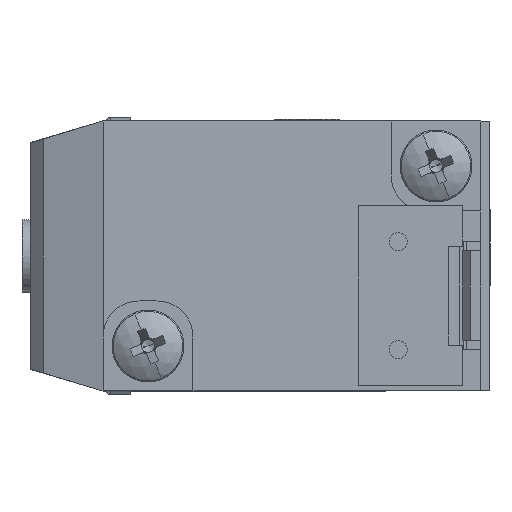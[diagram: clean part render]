
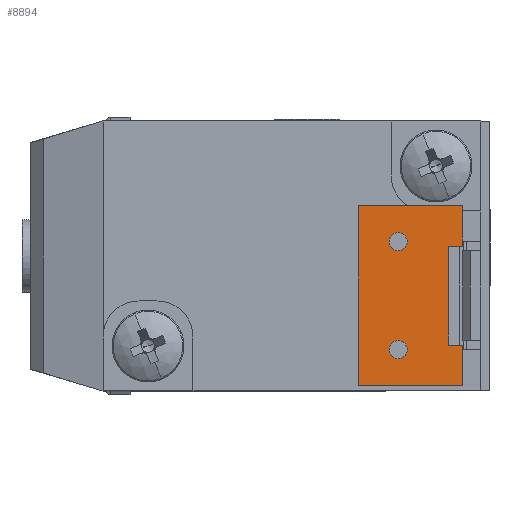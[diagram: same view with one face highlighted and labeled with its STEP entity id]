
A CAD part, left-side view. The second image highlights one B-rep face of the part: STEP entity #8894.
In plain terms, the highlighted planar face has unit normal (-1, 0, 0) as drawn and (0, 0, 1) by its records, which use the part's own axes.
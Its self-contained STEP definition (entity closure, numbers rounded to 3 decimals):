
#51 = VECTOR ( 'NONE', #7351, 1000. ) ;
#61 = EDGE_CURVE ( 'NONE', #5754, #699, #3608, .T. ) ;
#301 = LINE ( 'NONE', #10906, #3540 ) ;
#320 = CARTESIAN_POINT ( 'NONE',  ( 0., 0., 6. ) ) ;
#480 = DIRECTION ( 'NONE',  ( 1., 0., 0. ) ) ;
#553 = VERTEX_POINT ( 'NONE', #3641 ) ;
#694 = VERTEX_POINT ( 'NONE', #10408 ) ;
#699 = VERTEX_POINT ( 'NONE', #2074 ) ;
#1002 = AXIS2_PLACEMENT_3D ( 'NONE', #8686, #9558, #6926 ) ;
#1006 = CARTESIAN_POINT ( 'NONE',  ( -2.75, 4.475, 6. ) ) ;
#1169 = CARTESIAN_POINT ( 'NONE',  ( -3.5, 8.075, 6. ) ) ;
#1214 = CIRCLE ( 'NONE', #2856, 0.5 ) ;
#1217 = PLANE ( 'NONE',  #3721 ) ;
#1250 = DIRECTION ( 'NONE',  ( 0., -1., 0. ) ) ;
#1323 = VERTEX_POINT ( 'NONE', #1801 ) ;
#1412 = LINE ( 'NONE', #3892, #7631 ) ;
#1490 = EDGE_CURVE ( 'NONE', #553, #694, #1412, .T. ) ;
#1589 = CARTESIAN_POINT ( 'NONE',  ( -2.5, 8.075, 6. ) ) ;
#1797 = VERTEX_POINT ( 'NONE', #3399 ) ;
#1801 = CARTESIAN_POINT ( 'NONE',  ( 5., 4.475, 6. ) ) ;
#1917 = AXIS2_PLACEMENT_3D ( 'NONE', #9466, #6914, #6840 ) ;
#2000 = DIRECTION ( 'NONE',  ( 0., -1., 0. ) ) ;
#2074 = CARTESIAN_POINT ( 'NONE',  ( -5., 10.275, 6. ) ) ;
#2388 = ORIENTED_EDGE ( 'NONE', *, *, #7657, .T. ) ;
#2513 = ORIENTED_EDGE ( 'NONE', *, *, #4552, .T. ) ;
#2838 = CARTESIAN_POINT ( 'NONE',  ( -2.75, 4.075, 6. ) ) ;
#2856 = AXIS2_PLACEMENT_3D ( 'NONE', #3131, #5819, #4106 ) ;
#2990 = VECTOR ( 'NONE', #4059, 1000. ) ;
#3036 = CARTESIAN_POINT ( 'NONE',  ( -5., 0., 6. ) ) ;
#3131 = CARTESIAN_POINT ( 'NONE',  ( 3., 8.075, 6. ) ) ;
#3237 = VERTEX_POINT ( 'NONE', #4659 ) ;
#3290 = DIRECTION ( 'NONE',  ( -1., 0., 0. ) ) ;
#3370 = CARTESIAN_POINT ( 'NONE',  ( -3., 8.075, 6. ) ) ;
#3399 = CARTESIAN_POINT ( 'NONE',  ( 2.5, 8.075, 6. ) ) ;
#3528 = ORIENTED_EDGE ( 'NONE', *, *, #10334, .F. ) ;
#3540 = VECTOR ( 'NONE', #480, 1000. ) ;
#3542 = ORIENTED_EDGE ( 'NONE', *, *, #6815, .F. ) ;
#3608 = LINE ( 'NONE', #5855, #6178 ) ;
#3641 = CARTESIAN_POINT ( 'NONE',  ( 2.75, 4.475, 6. ) ) ;
#3721 = AXIS2_PLACEMENT_3D ( 'NONE', #320, #4613, #8109 ) ;
#3741 = DIRECTION ( 'NONE',  ( 0., 1., 0. ) ) ;
#3776 = CIRCLE ( 'NONE', #1917, 0.5 ) ;
#3892 = CARTESIAN_POINT ( 'NONE',  ( 2.75, 4.075, 6. ) ) ;
#4013 = VECTOR ( 'NONE', #2000, 1000. ) ;
#4028 = EDGE_LOOP ( 'NONE', ( #3542, #8997 ) ) ;
#4059 = DIRECTION ( 'NONE',  ( -1., 0., 0. ) ) ;
#4106 = DIRECTION ( 'NONE',  ( -1., 0., 0. ) ) ;
#4260 = DIRECTION ( 'NONE',  ( 0., 0., 1. ) ) ;
#4307 = ORIENTED_EDGE ( 'NONE', *, *, #10307, .T. ) ;
#4552 = EDGE_CURVE ( 'NONE', #4600, #1797, #1214, .T. ) ;
#4600 = VERTEX_POINT ( 'NONE', #10951 ) ;
#4613 = DIRECTION ( 'NONE',  ( 0., 0., -1. ) ) ;
#4632 = LINE ( 'NONE', #4730, #51 ) ;
#4659 = CARTESIAN_POINT ( 'NONE',  ( -5., 4.475, 6. ) ) ;
#4730 = CARTESIAN_POINT ( 'NONE',  ( 0., 4.475, 6. ) ) ;
#4869 = VERTEX_POINT ( 'NONE', #1589 ) ;
#5189 = EDGE_LOOP ( 'NONE', ( #4307, #11189, #3528, #6816, #7320, #9668, #5687, #2388 ) ) ;
#5302 = ORIENTED_EDGE ( 'NONE', *, *, #5557, .T. ) ;
#5485 = EDGE_CURVE ( 'NONE', #8340, #4869, #10937, .T. ) ;
#5512 = CARTESIAN_POINT ( 'NONE',  ( 5., 10.275, 6. ) ) ;
#5534 = EDGE_LOOP ( 'NONE', ( #2513, #5302 ) ) ;
#5557 = EDGE_CURVE ( 'NONE', #1797, #4600, #3776, .T. ) ;
#5687 = ORIENTED_EDGE ( 'NONE', *, *, #61, .T. ) ;
#5754 = VERTEX_POINT ( 'NONE', #5512 ) ;
#5819 = DIRECTION ( 'NONE',  ( 0., 0., -1. ) ) ;
#5855 = CARTESIAN_POINT ( 'NONE',  ( 0., 10.275, 6. ) ) ;
#5974 = CARTESIAN_POINT ( 'NONE',  ( 5., 0., 6. ) ) ;
#6019 = VECTOR ( 'NONE', #1250, 1000. ) ;
#6178 = VECTOR ( 'NONE', #3290, 1000. ) ;
#6281 = FACE_BOUND ( 'NONE', #5534, .T. ) ;
#6815 = EDGE_CURVE ( 'NONE', #4869, #8340, #10491, .T. ) ;
#6816 = ORIENTED_EDGE ( 'NONE', *, *, #1490, .F. ) ;
#6840 = DIRECTION ( 'NONE',  ( -1., 0., 0. ) ) ;
#6914 = DIRECTION ( 'NONE',  ( 0., 0., -1. ) ) ;
#6926 = DIRECTION ( 'NONE',  ( 1., 0., 0. ) ) ;
#6992 = EDGE_CURVE ( 'NONE', #7816, #10896, #11030, .T. ) ;
#7320 = ORIENTED_EDGE ( 'NONE', *, *, #8898, .T. ) ;
#7351 = DIRECTION ( 'NONE',  ( 1., 0., 0. ) ) ;
#7474 = CARTESIAN_POINT ( 'NONE',  ( -2.75, 5.275, 6. ) ) ;
#7566 = DIRECTION ( 'NONE',  ( 0., 1., 0. ) ) ;
#7617 = VECTOR ( 'NONE', #7566, 1000. ) ;
#7629 = FACE_BOUND ( 'NONE', #4028, .T. ) ;
#7631 = VECTOR ( 'NONE', #3741, 1000. ) ;
#7657 = EDGE_CURVE ( 'NONE', #699, #3237, #8320, .T. ) ;
#7816 = VERTEX_POINT ( 'NONE', #9254 ) ;
#8109 = DIRECTION ( 'NONE',  ( -1., 0., 0. ) ) ;
#8320 = LINE ( 'NONE', #3036, #6019 ) ;
#8340 = VERTEX_POINT ( 'NONE', #1169 ) ;
#8530 = DIRECTION ( 'NONE',  ( 1., 0., 0. ) ) ;
#8686 = CARTESIAN_POINT ( 'NONE',  ( -3., 8.075, 6. ) ) ;
#8894 = ADVANCED_FACE ( 'NONE', ( #10595, #7629, #6281 ), #1217, .F. ) ;
#8898 = EDGE_CURVE ( 'NONE', #553, #1323, #4632, .T. ) ;
#8997 = ORIENTED_EDGE ( 'NONE', *, *, #5485, .F. ) ;
#9181 = EDGE_CURVE ( 'NONE', #1323, #5754, #9902, .T. ) ;
#9254 = CARTESIAN_POINT ( 'NONE',  ( -2.75, 5.275, 6. ) ) ;
#9466 = CARTESIAN_POINT ( 'NONE',  ( 3., 8.075, 6. ) ) ;
#9558 = DIRECTION ( 'NONE',  ( 0., 0., 1. ) ) ;
#9607 = LINE ( 'NONE', #7474, #2990 ) ;
#9668 = ORIENTED_EDGE ( 'NONE', *, *, #9181, .T. ) ;
#9902 = LINE ( 'NONE', #5974, #7617 ) ;
#10307 = EDGE_CURVE ( 'NONE', #3237, #10896, #301, .T. ) ;
#10334 = EDGE_CURVE ( 'NONE', #694, #7816, #9607, .T. ) ;
#10408 = CARTESIAN_POINT ( 'NONE',  ( 2.75, 5.275, 6. ) ) ;
#10491 = CIRCLE ( 'NONE', #1002, 0.5 ) ;
#10595 = FACE_OUTER_BOUND ( 'NONE', #5189, .T. ) ;
#10896 = VERTEX_POINT ( 'NONE', #1006 ) ;
#10906 = CARTESIAN_POINT ( 'NONE',  ( 0., 4.475, 6. ) ) ;
#10937 = CIRCLE ( 'NONE', #11213, 0.5 ) ;
#10951 = CARTESIAN_POINT ( 'NONE',  ( 3.5, 8.075, 6. ) ) ;
#11030 = LINE ( 'NONE', #2838, #4013 ) ;
#11189 = ORIENTED_EDGE ( 'NONE', *, *, #6992, .F. ) ;
#11213 = AXIS2_PLACEMENT_3D ( 'NONE', #3370, #4260, #8530 ) ;
